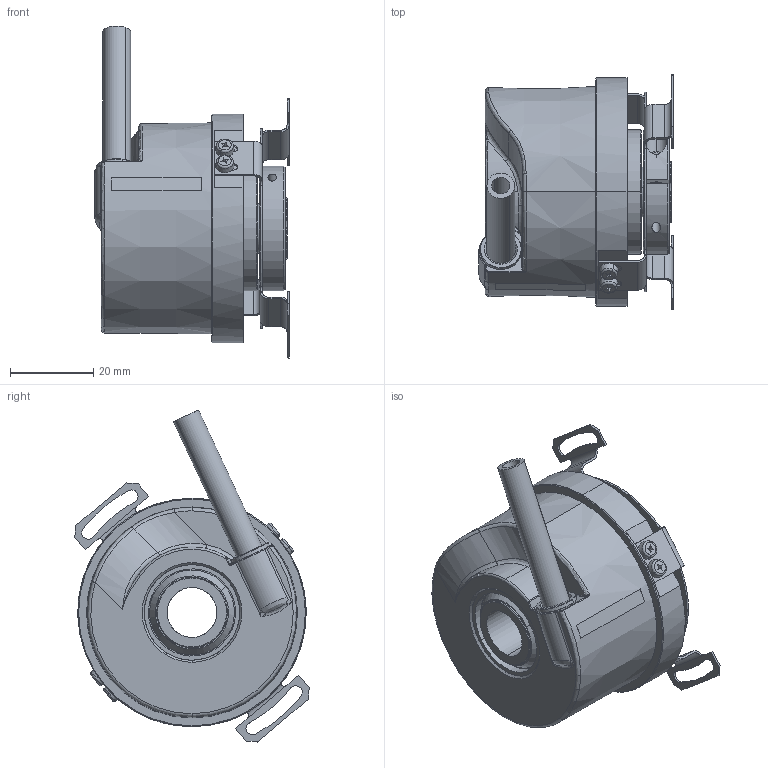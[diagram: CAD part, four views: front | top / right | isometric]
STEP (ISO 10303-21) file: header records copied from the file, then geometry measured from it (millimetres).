
FILE_DESCRIPTION (( 'STEP AP214' ), '1' );
FILE_NAME ('5020.D5XE.XXXX.STEP', '2011-01-10T10:48:12', ( 'admin' ), ( 'Fritz Kübler GmbH' ), 'SwSTEP 2.0', 'SolidWorks 2009', '' );
FILE_SCHEMA (( 'AUTOMOTIVE_DESIGN' ));
Length unit declared in the file: millimetre
Products named in the file (1): 5020.D5XE.XXXX
Bounding box: 46.8 x 56.46 x 79.93 mm (x, y, z)
Surface area: 21145.2 mm2 (no closed solid volume)
Topology: 0 solids, 16 shells, 330 faces, 908 edges, 578 vertices
Faces by surface type: plane 136, cylinder 109, cone 35, torus 30, bspline 20
Entity records: 16777 total; most frequent: CARTESIAN_POINT 4780, DIRECTION 1801, ORIENTED_EDGE 1610, EDGE_CURVE 901, AXIS2_PLACEMENT_3D 675, VERTEX_POINT 578, VECTOR 451, LINE 451
